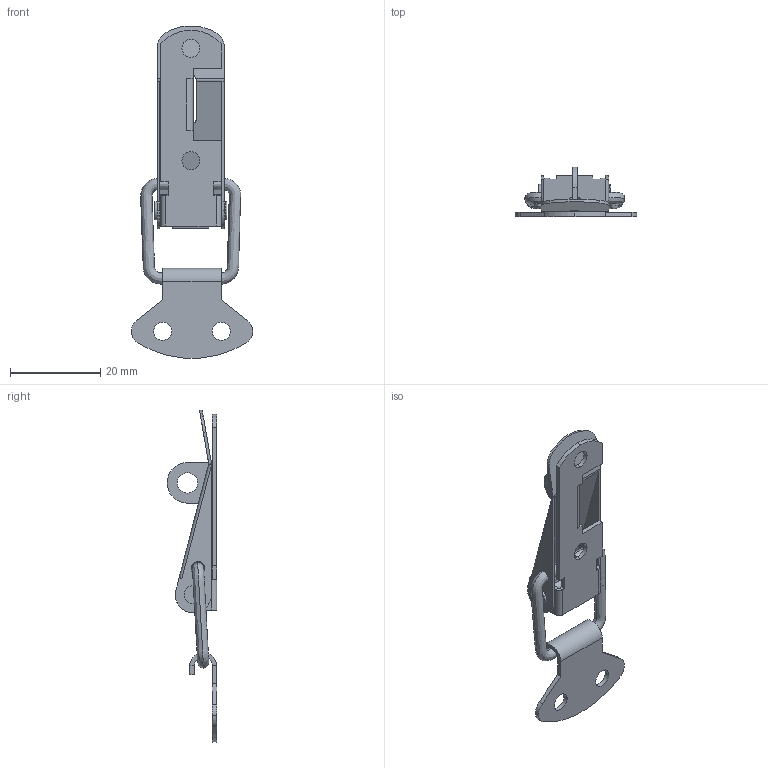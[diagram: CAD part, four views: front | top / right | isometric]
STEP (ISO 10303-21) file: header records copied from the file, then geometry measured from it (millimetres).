
FILE_DESCRIPTION (( 'STEP AP203' ), '1' );
FILE_NAME ('SK3-002.STEP', '2018-11-01T07:26:38', ( 'admin' ), ( 'Microsoft' ), 'SwSTEP 2.0', 'SolidWorks 2015', '' );
FILE_SCHEMA (( 'CONFIG_CONTROL_DESIGN' ));
Length unit declared in the file: millimetre
Products named in the file (6): SK3-002  芛﹝; SK3-002  种隊; SK3-002; SK3-002  嘐隅; SK3-002  減諶; SK3-002  魂雄
Assembly tree (5 placements, depth 2):
  SK3-002
    SK3-002  嘐隅
    SK3-002  減諶
    SK3-002  魂雄
    SK3-002  芛﹝
    SK3-002  种隊
Bounding box: 27 x 11 x 73.78 mm (x, y, z)
Volume: 1959 mm3; surface area: 4941.3 mm2
Topology: 5 solids, 5 shells, 172 faces, 413 edges, 252 vertices
Faces by surface type: plane 93, cylinder 66, torus 8, bspline 5
Entity records: 7064 total; most frequent: CARTESIAN_POINT 2312, DIRECTION 911, ORIENTED_EDGE 826, EDGE_CURVE 413, AXIS2_PLACEMENT_3D 331, VERTEX_POINT 252, LINE 249, VECTOR 249
